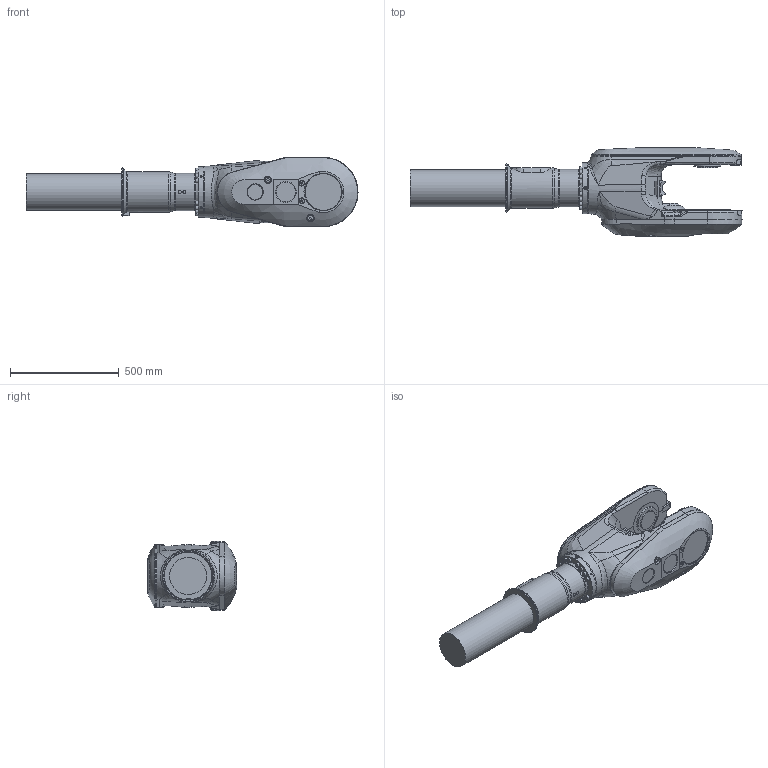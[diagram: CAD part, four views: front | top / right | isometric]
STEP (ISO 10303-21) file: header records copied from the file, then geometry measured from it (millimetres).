
FILE_DESCRIPTION (( 'STEP AP214' ), '1' );
FILE_NAME ('IRB6750S_All-320_OC_00_LINK04_CAD.step', '2026-05-07T13:40:10', ( '' ), ( '' ), 'SwSTEP 2.0', 'SolidWorks 2024', '' );
FILE_SCHEMA (( 'AUTOMOTIVE_DESIGN' ));
Length unit declared in the file: millimetre
Products named in the file (1): IRB6750S_All-320_OC_00_LINK04_CAD
Bounding box: 1524.5 x 409.36 x 318 mm (x, y, z)
Volume: 65812165.5 mm3; surface area: 1548928.8 mm2
Topology: 1 solids, 4 shells, 669 faces, 1637 edges, 1034 vertices
Faces by surface type: plane 326, cylinder 125, bspline 112, cone 82, torus 22, sphere 2
Full cylindrical faces by diameter (mm): 0.1 x1, 6.8 x6, 8.3 x2, 10.5 x1, 12 x3, 14 x2, 17.9 x2, 18 x2, 18.27 x16, 20.8 x2, 24 x1, 27 x2, 28.01 x1, 28.5 x2, 62 x1, 92 x1, 115 x1, 124 x1, 163 x1, 165 x1, 170 x2, 172 x2, 185 x1, 186.4 x1, 188.4 x1, 191.4 x1, 192.4 x1, 195 x1, 234 x1
Entity records: 35564 total; most frequent: CARTESIAN_POINT 14571, ORIENTED_EDGE 2940, DIRECTION 2393, EDGE_CURVE 1470, VERTEX_POINT 995, AXIS2_PLACEMENT_3D 891, EDGE_LOOP 857, FACE_OUTER_BOUND 742
